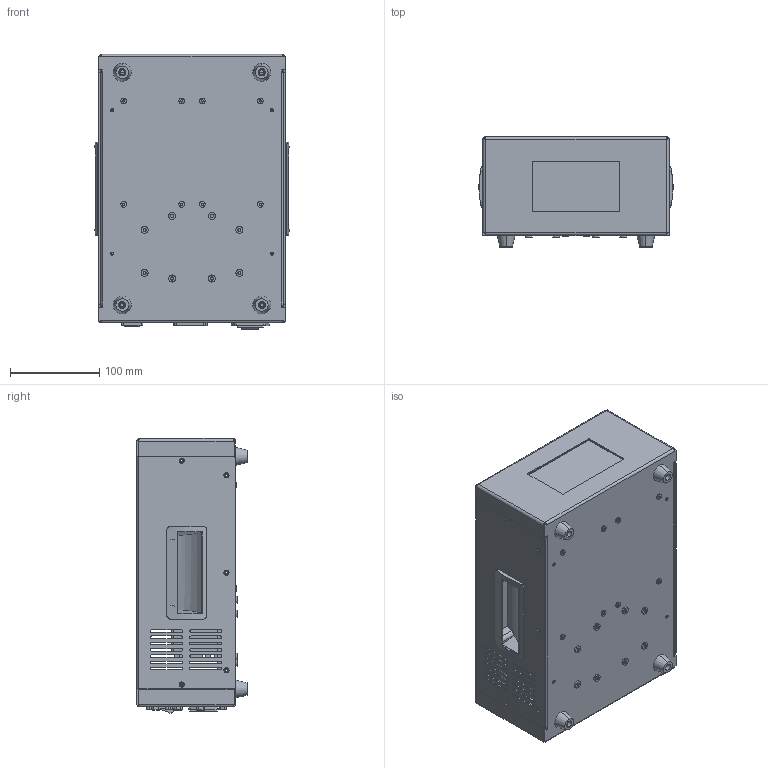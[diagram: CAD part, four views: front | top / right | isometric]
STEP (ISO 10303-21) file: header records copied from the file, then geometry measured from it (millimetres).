
FILE_DESCRIPTION (( 'STEP AP214' ), '1' );
FILE_NAME ('Cl42 Dual LED controller.STEP', '2022-03-18T08:06:16', ( '' ), ( '' ), 'SwSTEP 2.0', 'SolidWorks 2018', '' );
FILE_SCHEMA (( 'AUTOMOTIVE_DESIGN' ));
Length unit declared in the file: millimetre
Products named in the file (1): Cl42 Dual LED controller
Bounding box: 216.93 x 123 x 307.43 mm (x, y, z)
Surface area: 627299.3 mm2 (no closed solid volume)
Topology: 0 solids, 106 shells, 1121 faces, 4351 edges, 3276 vertices
Faces by surface type: cylinder 552, plane 446, cone 53, bspline 42, torus 28
Entity records: 63140 total; most frequent: CARTESIAN_POINT 13083, DIRECTION 8194, ORIENTED_EDGE 6569, EDGE_CURVE 4351, VERTEX_POINT 3276, AXIS2_PLACEMENT_3D 2963, VECTOR 2268, LINE 2268
